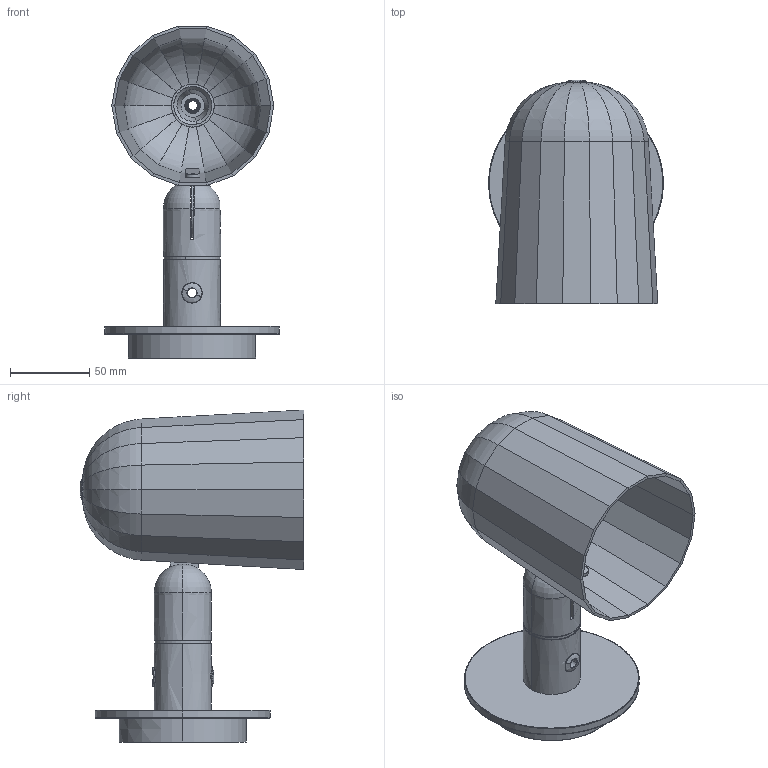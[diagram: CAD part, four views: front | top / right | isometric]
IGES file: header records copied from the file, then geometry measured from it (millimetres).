
Start section: SolidWorks IGES file using analytic representation for surfaces
Global section: file name: C:\Users\Gigi Chan\Desktop\3D file\02_NocWall\WL_NocWall_AS01.IGS; native system: SolidWorks 2015; preprocessor: SolidWorks 2015; author: Gigi Chan; date: 161013.174728; units: millimetre
Bounding box: 110 x 140.88 x 209.08 mm (x, y, z)
Surface area: 152252 mm2 (no closed solid volume)
Topology: 0 solids, 0 shells, 409 faces, 6694 edges, 6688 vertices
Faces by surface type: bspline 212, revolution 197
